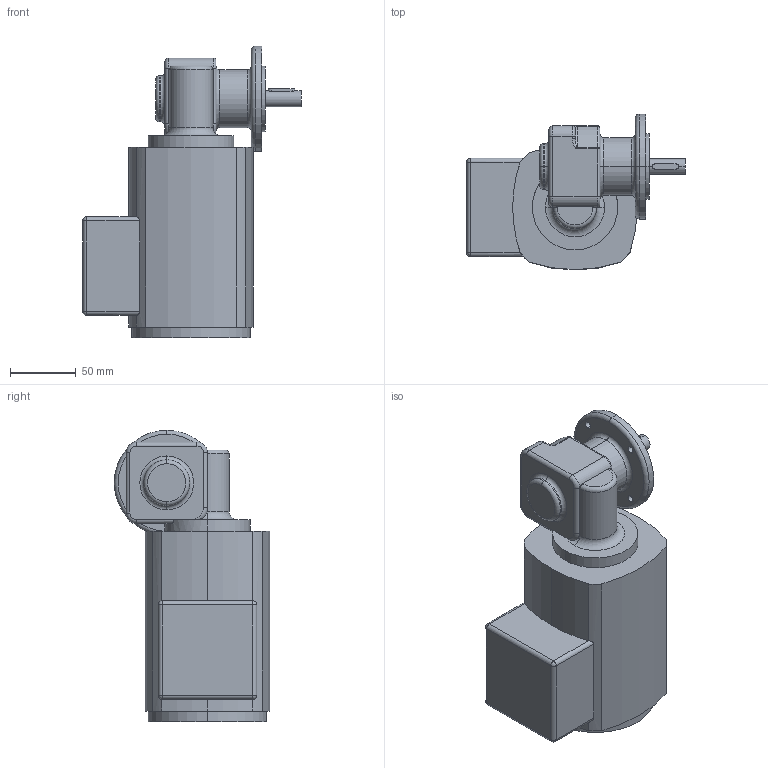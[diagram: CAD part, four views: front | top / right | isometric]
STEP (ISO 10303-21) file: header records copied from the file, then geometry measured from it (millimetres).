
FILE_DESCRIPTION (( 'STEP AP203' ), '1' );
FILE_NAME ('SN5FRUG-90W-D.STEP', '2013-09-16T13:08:06', ( '' ), ( '' ), 'SwSTEP 2.0', 'SolidWorks 2011', '' );
FILE_SCHEMA (( 'CONFIG_CONTROL_DESIGN' ));
Length unit declared in the file: millimetre
Products named in the file (3): SN5FRUG-90W-D; 90W-UG-Mot-of; SN5FR
Assembly tree (2 placements, depth 2):
  SN5FRUG-90W-D
    90W-UG-Mot-of
    SN5FR
Bounding box: 166.5 x 118.5 x 222 mm (x, y, z)
Volume: 1637039.7 mm3; surface area: 110645 mm2
Topology: 2 solids, 2 shells, 138 faces, 326 edges, 192 vertices
Faces by surface type: cylinder 70, plane 28, torus 28, sphere 8, bspline 4
Entity records: 4810 total; most frequent: CARTESIAN_POINT 1295, DIRECTION 743, ORIENTED_EDGE 640, EDGE_CURVE 320, AXIS2_PLACEMENT_3D 316, VERTEX_POINT 192, CIRCLE 177, EDGE_LOOP 152
